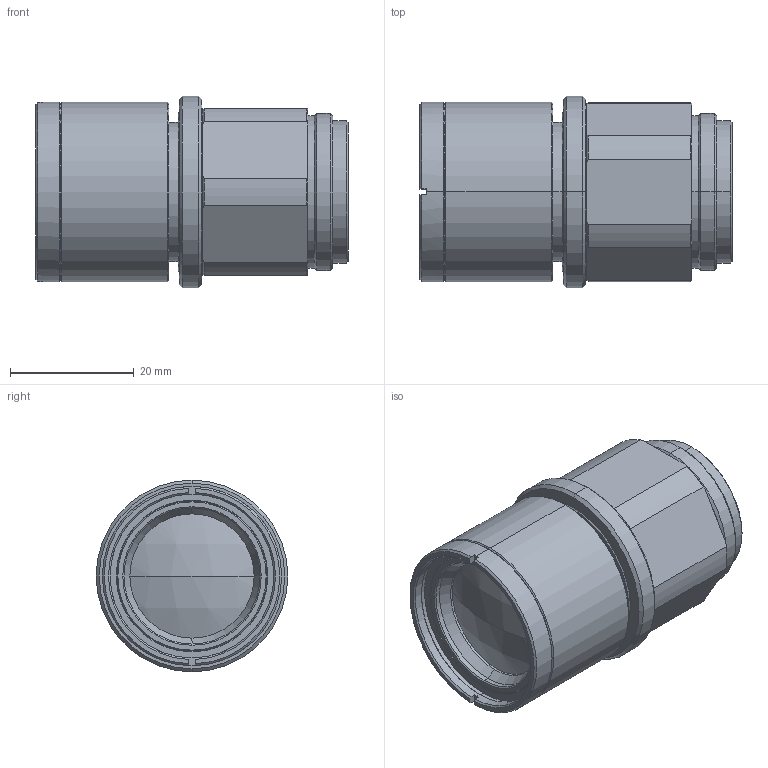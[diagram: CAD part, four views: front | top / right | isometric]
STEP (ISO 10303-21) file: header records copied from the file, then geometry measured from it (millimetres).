
FILE_DESCRIPTION (( 'STEP AP203' ), '1' );
FILE_NAME ('VS-MCA50.STEP', '2017-10-11T05:37:46', ( '' ), ( '' ), 'SwSTEP 2.0', 'SolidWorks 2017', '' );
FILE_SCHEMA (( 'CONFIG_CONTROL_DESIGN' ));
Length unit declared in the file: millimetre
Products named in the file (1): VS-MCA50
Bounding box: 50.5 x 31 x 31 mm (x, y, z)
Volume: 24291.1 mm3; surface area: 8720.7 mm2
Topology: 1 solids, 1 shells, 125 faces, 288 edges, 178 vertices
Faces by surface type: cone 58, cylinder 36, plane 27, sphere 4
Entity records: 3659 total; most frequent: CARTESIAN_POINT 688, DIRECTION 652, ORIENTED_EDGE 576, EDGE_CURVE 288, AXIS2_PLACEMENT_3D 270, VERTEX_POINT 178, CIRCLE 144, EDGE_LOOP 138
